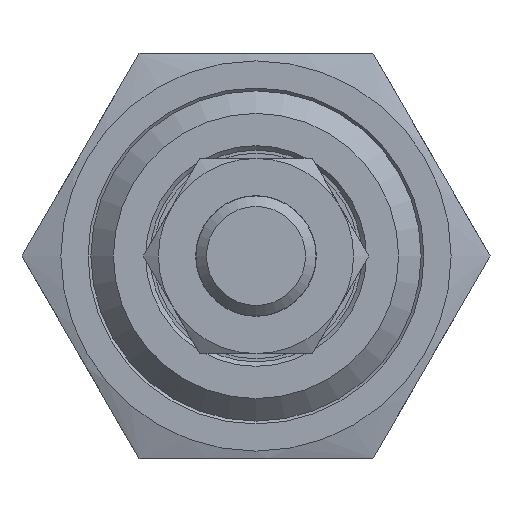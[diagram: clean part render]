
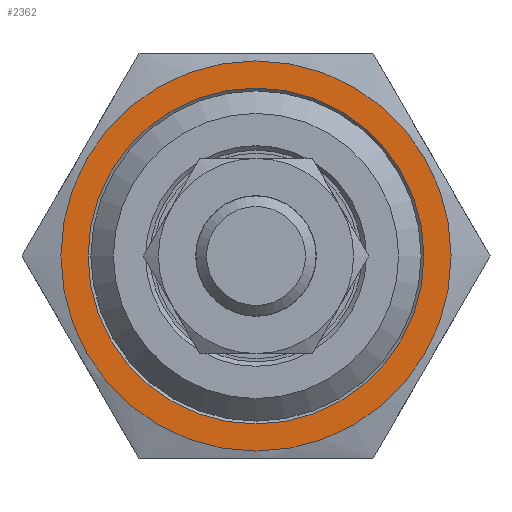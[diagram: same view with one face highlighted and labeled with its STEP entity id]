
A CAD part, front view. The second image highlights one B-rep face of the part: STEP entity #2362.
In plain terms, the highlighted planar face has unit normal (0, -1, 0) as drawn and (0, 0, -1) by its records, which use the part's own axes.
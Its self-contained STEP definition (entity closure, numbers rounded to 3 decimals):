
#423=PLANE('',#3832);
#967=ORIENTED_EDGE('',*,*,#1283,.T.);
#968=ORIENTED_EDGE('',*,*,#1284,.T.);
#1283=EDGE_CURVE('',#1504,#1504,#1652,.T.);
#1284=EDGE_CURVE('',#1505,#1505,#1653,.T.);
#1504=VERTEX_POINT('',#5333);
#1505=VERTEX_POINT('',#5335);
#1652=CIRCLE('',#3833,11.188);
#1653=CIRCLE('',#3834,13.);
#1894=EDGE_LOOP('',(#967));
#1895=EDGE_LOOP('',(#968));
#2151=FACE_BOUND('',#1894,.T.);
#2152=FACE_BOUND('',#1895,.T.);
#2362=ADVANCED_FACE('',(#2151,#2152),#423,.F.);
#3832=AXIS2_PLACEMENT_3D('',#5331,#4510,#4511);
#3833=AXIS2_PLACEMENT_3D('',#5332,#4512,#4513);
#3834=AXIS2_PLACEMENT_3D('',#5334,#4514,#4515);
#4510=DIRECTION('',(0.,0.,1.));
#4511=DIRECTION('',(1.,0.,0.));
#4512=DIRECTION('',(0.,0.,1.));
#4513=DIRECTION('',(1.,0.,0.));
#4514=DIRECTION('',(0.,0.,-1.));
#4515=DIRECTION('',(1.,0.,0.));
#5331=CARTESIAN_POINT('',(0.,0.,-4.));
#5332=CARTESIAN_POINT('',(0.,0.,-4.));
#5333=CARTESIAN_POINT('',(11.188,0.,-4.));
#5334=CARTESIAN_POINT('',(0.,0.,-4.));
#5335=CARTESIAN_POINT('',(13.,0.,-4.));
